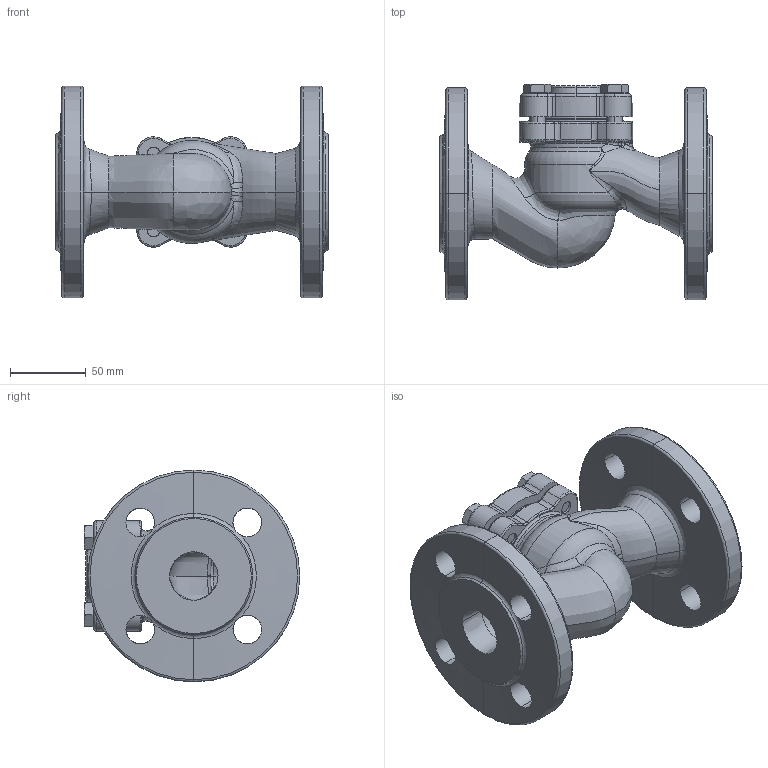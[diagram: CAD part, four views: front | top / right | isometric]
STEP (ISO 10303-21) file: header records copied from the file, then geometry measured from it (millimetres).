
FILE_DESCRIPTION (( 'STEP AP214' ), '1' );
FILE_NAME ('TCV_DN32 PN16.STEP', '2024-08-15T11:55:08', ( '' ), ( '' ), 'SwSTEP 2.0', 'SolidWorks 2023', '' );
FILE_SCHEMA (( 'AUTOMOTIVE_DESIGN' ));
Products named in the file (1): TCV_DN32 PN16
Bounding box: 180 x 142.4 x 140 mm (x, y, z)
Volume: 761950.9 mm3; surface area: 158065.8 mm2
Topology: 6 solids, 6 shells, 493 faces, 1210 edges, 717 vertices
Faces by surface type: bspline 140, cylinder 134, plane 102, torus 61, cone 52, sphere 4
Entity records: 87735 total; most frequent: CARTESIAN_POINT 77446, ORIENTED_EDGE 2400, DIRECTION 1725, EDGE_CURVE 1200, VERTEX_POINT 717, AXIS2_PLACEMENT_3D 715, EDGE_LOOP 527, ADVANCED_FACE 493
